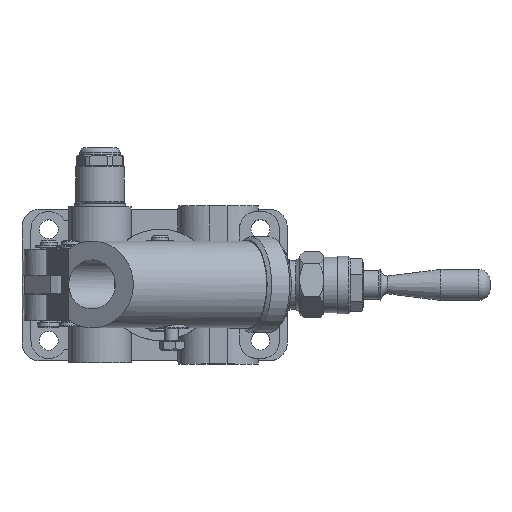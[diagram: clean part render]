
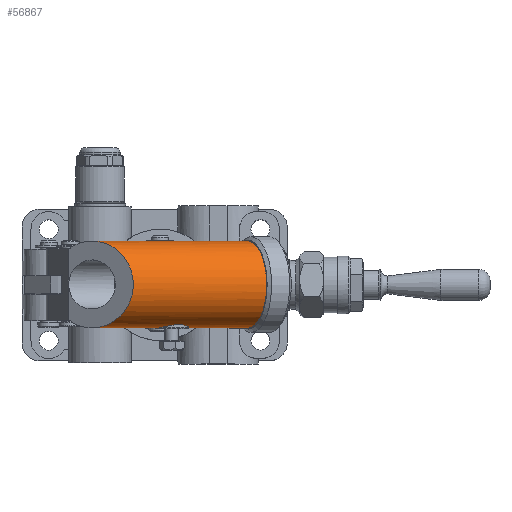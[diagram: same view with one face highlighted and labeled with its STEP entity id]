
A CAD part, top view. The second image highlights one B-rep face of the part: STEP entity #56867.
In plain terms, the highlighted cylindrical face has radius 19.48 mm (diameter 38.961 mm), a partial arc.
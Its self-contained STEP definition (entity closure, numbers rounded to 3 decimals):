
#98=ELLIPSE('',#60003,20.731,19.481);
#99=ELLIPSE('',#60008,20.731,19.481);
#100=ELLIPSE('',#60011,20.731,19.481);
#101=ELLIPSE('',#60014,22.494,19.481);
#102=ELLIPSE('',#60017,20.731,19.481);
#277=B_SPLINE_CURVE_WITH_KNOTS('',3,(#87055,#87056,#87057,#87058,#87059,
#87060),.UNSPECIFIED.,.F.,.F.,(4,1,1,4),(0.039,0.043,
0.045,0.047),.UNSPECIFIED.);
#278=B_SPLINE_CURVE_WITH_KNOTS('',3,(#87062,#87063,#87064,#87065,#87066),
 .UNSPECIFIED.,.F.,.F.,(4,1,4),(0.,0.004,0.009),
 .UNSPECIFIED.);
#279=B_SPLINE_CURVE_WITH_KNOTS('',3,(#87070,#87071,#87072,#87073,#87074),
 .UNSPECIFIED.,.F.,.F.,(4,1,4),(0.032,0.035,0.039),
 .UNSPECIFIED.);
#280=B_SPLINE_CURVE_WITH_KNOTS('',3,(#87076,#87077,#87078,#87079,#87080,
#87081,#87082),.UNSPECIFIED.,.F.,.F.,(4,1,1,1,4),(0.015,0.019,
0.024,0.028,0.032),.UNSPECIFIED.);
#281=B_SPLINE_CURVE_WITH_KNOTS('',3,(#87084,#87085,#87086,#87087,#87088),
 .UNSPECIFIED.,.F.,.F.,(4,1,4),(0.009,0.012,
0.015),.UNSPECIFIED.);
#5025=LINE('',#87022,#9785);
#5026=LINE('',#87023,#9786);
#5030=LINE('',#87033,#9790);
#5031=LINE('',#87035,#9791);
#5033=LINE('',#87041,#9793);
#5034=LINE('',#87045,#9794);
#5037=LINE('',#87053,#9797);
#9785=VECTOR('',#70982,1000.);
#9786=VECTOR('',#70983,1000.);
#9790=VECTOR('',#70993,1000.);
#9791=VECTOR('',#70994,1000.);
#9793=VECTOR('',#71002,1000.);
#9794=VECTOR('',#71009,1000.);
#9797=VECTOR('',#71018,1000.);
#23148=ORIENTED_EDGE('',*,*,#28996,.F.);
#23149=ORIENTED_EDGE('',*,*,#28995,.T.);
#23150=ORIENTED_EDGE('',*,*,#28992,.T.);
#23151=ORIENTED_EDGE('',*,*,#28991,.T.);
#23152=ORIENTED_EDGE('',*,*,#28990,.F.);
#23153=ORIENTED_EDGE('',*,*,#28988,.T.);
#23154=ORIENTED_EDGE('',*,*,#28987,.F.);
#23155=ORIENTED_EDGE('',*,*,#28997,.F.);
#23156=ORIENTED_EDGE('',*,*,#29000,.F.);
#23157=ORIENTED_EDGE('',*,*,#29001,.F.);
#23158=ORIENTED_EDGE('',*,*,#29002,.F.);
#23159=ORIENTED_EDGE('',*,*,#28998,.F.);
#23160=ORIENTED_EDGE('',*,*,#28986,.F.);
#23161=ORIENTED_EDGE('',*,*,#28984,.F.);
#23162=ORIENTED_EDGE('',*,*,#28981,.T.);
#23163=ORIENTED_EDGE('',*,*,#28978,.T.);
#23164=ORIENTED_EDGE('',*,*,#28980,.T.);
#23165=ORIENTED_EDGE('',*,*,#28976,.F.);
#28976=EDGE_CURVE('',#32848,#32849,#98,.T.);
#28978=EDGE_CURVE('',#32850,#32851,#33777,.T.);
#28980=EDGE_CURVE('',#32851,#32849,#5025,.F.);
#28981=EDGE_CURVE('',#32852,#32850,#5026,.T.);
#28984=EDGE_CURVE('',#32852,#32853,#99,.T.);
#28986=EDGE_CURVE('',#32853,#32855,#5030,.F.);
#28987=EDGE_CURVE('',#32855,#32854,#5031,.F.);
#28988=EDGE_CURVE('',#32856,#32854,#100,.T.);
#28990=EDGE_CURVE('',#32856,#32829,#5033,.F.);
#28991=EDGE_CURVE('',#32830,#32829,#101,.T.);
#28992=EDGE_CURVE('',#32857,#32830,#5034,.F.);
#28995=EDGE_CURVE('',#32858,#32857,#102,.T.);
#28996=EDGE_CURVE('',#32858,#32848,#5037,.T.);
#28997=EDGE_CURVE('',#32859,#32855,#277,.T.);
#28998=EDGE_CURVE('',#32855,#32860,#278,.T.);
#29000=EDGE_CURVE('',#32861,#32859,#279,.T.);
#29001=EDGE_CURVE('',#32862,#32861,#280,.T.);
#29002=EDGE_CURVE('',#32860,#32862,#281,.T.);
#32829=VERTEX_POINT('',#86953);
#32830=VERTEX_POINT('',#86955);
#32848=VERTEX_POINT('',#87012);
#32849=VERTEX_POINT('',#87014);
#32850=VERTEX_POINT('',#87018);
#32851=VERTEX_POINT('',#87019);
#32852=VERTEX_POINT('',#87024);
#32853=VERTEX_POINT('',#87028);
#32854=VERTEX_POINT('',#87032);
#32855=VERTEX_POINT('',#87034);
#32856=VERTEX_POINT('',#87038);
#32857=VERTEX_POINT('',#87046);
#32858=VERTEX_POINT('',#87050);
#32859=VERTEX_POINT('',#87061);
#32860=VERTEX_POINT('',#87067);
#32861=VERTEX_POINT('',#87075);
#32862=VERTEX_POINT('',#87083);
#33777=CIRCLE('',#60005,19.481);
#36668=EDGE_LOOP('',(#23148,#23149,#23150,#23151,#23152,#23153,#23154,#23155,
#23156,#23157,#23158,#23159,#23160,#23161,#23162,#23163,#23164,#23165));
#39580=FACE_BOUND('',#36668,.T.);
#39872=CYLINDRICAL_SURFACE('',#60021,19.481);
#56867=ADVANCED_FACE('',(#39580),#39872,.T.);
#60003=AXIS2_PLACEMENT_3D('',#87013,#70972,#70973);
#60005=AXIS2_PLACEMENT_3D('',#87017,#70977,#70978);
#60008=AXIS2_PLACEMENT_3D('',#87029,#70988,#70989);
#60011=AXIS2_PLACEMENT_3D('',#87037,#70997,#70998);
#60014=AXIS2_PLACEMENT_3D('',#87043,#71005,#71006);
#60017=AXIS2_PLACEMENT_3D('',#87051,#71014,#71015);
#60021=AXIS2_PLACEMENT_3D('',#87069,#71023,#71024);
#70972=DIRECTION('',(-0.702,0.,0.712));
#70973=DIRECTION('',(0.712,0.,0.702));
#70977=DIRECTION('',(-0.903,0.,0.429));
#70978=DIRECTION('',(0.429,0.,0.903));
#70982=DIRECTION('',(0.903,0.,-0.429));
#70983=DIRECTION('',(0.903,0.,-0.429));
#70988=DIRECTION('',(-0.702,0.,0.712));
#70989=DIRECTION('',(0.712,0.,0.702));
#70993=DIRECTION('',(0.903,0.,-0.429));
#70994=DIRECTION('',(0.903,0.,-0.429));
#70997=DIRECTION('',(-0.996,0.,0.094));
#70998=DIRECTION('',(-0.094,0.,-0.996));
#71002=DIRECTION('',(0.903,0.,-0.429));
#71005=DIRECTION('',(0.568,0.,-0.823));
#71006=DIRECTION('',(0.823,0.,0.568));
#71009=DIRECTION('',(0.903,0.,-0.429));
#71014=DIRECTION('',(-0.996,0.,0.094));
#71015=DIRECTION('',(-0.094,0.,-0.996));
#71018=DIRECTION('',(0.903,0.,-0.429));
#71023=DIRECTION('',(0.903,0.,-0.429));
#71024=DIRECTION('',(-0.429,0.,-0.903));
#86953=CARTESIAN_POINT('',(-41.164,-15.984,138.41));
#86955=CARTESIAN_POINT('',(-41.164,15.984,138.41));
#87012=CARTESIAN_POINT('',(35.198,17.982,106.214));
#87013=CARTESIAN_POINT('',(40.873,0.,111.814));
#87014=CARTESIAN_POINT('',(27.252,7.492,98.374));
#87017=CARTESIAN_POINT('',(39.426,0.,112.501));
#87018=CARTESIAN_POINT('',(31.718,-7.493,96.255));
#87019=CARTESIAN_POINT('',(31.718,7.492,96.255));
#87022=CARTESIAN_POINT('',(-44.098,7.492,132.224));
#87023=CARTESIAN_POINT('',(-44.098,-7.493,132.224));
#87024=CARTESIAN_POINT('',(27.252,-7.493,98.374));
#87028=CARTESIAN_POINT('',(35.198,-17.982,106.214));
#87029=CARTESIAN_POINT('',(40.873,0.,111.814));
#87032=CARTESIAN_POINT('',(-11.063,-17.982,128.162));
#87033=CARTESIAN_POINT('',(-39.602,-17.982,141.701));
#87034=CARTESIAN_POINT('',(1.916,-17.982,122.004));
#87035=CARTESIAN_POINT('',(-39.602,-17.982,141.701));
#87037=CARTESIAN_POINT('',(-10.316,0.,136.1));
#87038=CARTESIAN_POINT('',(-11.427,-15.984,124.302));
#87041=CARTESIAN_POINT('',(-41.164,-15.984,138.41));
#87043=CARTESIAN_POINT('',(-30.582,0.,145.715));
#87045=CARTESIAN_POINT('',(-41.164,15.984,138.41));
#87046=CARTESIAN_POINT('',(-11.427,15.984,124.302));
#87050=CARTESIAN_POINT('',(-11.063,17.982,128.162));
#87051=CARTESIAN_POINT('',(-10.316,0.,136.1));
#87053=CARTESIAN_POINT('',(-39.602,17.982,141.701));
#87055=CARTESIAN_POINT('',(-2.364,-19.231,128.886));
#87056=CARTESIAN_POINT('',(-2.385,-19.021,127.459));
#87057=CARTESIAN_POINT('',(-1.797,-18.538,125.331));
#87058=CARTESIAN_POINT('',(0.063,-18.071,123.114));
#87059=CARTESIAN_POINT('',(1.257,-17.982,122.317));
#87060=CARTESIAN_POINT('',(1.916,-17.982,122.004));
#87061=CARTESIAN_POINT('',(-2.364,-19.231,128.886));
#87062=CARTESIAN_POINT('',(1.916,-17.982,122.004));
#87063=CARTESIAN_POINT('',(3.235,-17.982,121.378));
#87064=CARTESIAN_POINT('',(6.165,-18.372,120.937));
#87065=CARTESIAN_POINT('',(8.868,-19.022,122.127));
#87066=CARTESIAN_POINT('',(9.954,-19.231,123.042));
#87067=CARTESIAN_POINT('',(9.954,-19.231,123.042));
#87069=CARTESIAN_POINT('',(-36.39,0.,148.471));
#87070=CARTESIAN_POINT('',(0.302,-19.231,134.504));
#87071=CARTESIAN_POINT('',(-0.516,-19.388,133.816));
#87072=CARTESIAN_POINT('',(-1.851,-19.574,132.089));
#87073=CARTESIAN_POINT('',(-2.348,-19.387,129.946));
#87074=CARTESIAN_POINT('',(-2.364,-19.231,128.886));
#87075=CARTESIAN_POINT('',(0.302,-19.231,134.504));
#87076=CARTESIAN_POINT('',(12.62,-19.231,128.66));
#87077=CARTESIAN_POINT('',(12.641,-19.02,130.096));
#87078=CARTESIAN_POINT('',(11.864,-18.374,132.909));
#87079=CARTESIAN_POINT('',(8.532,-17.786,135.931));
#87080=CARTESIAN_POINT('',(4.071,-18.373,136.608));
#87081=CARTESIAN_POINT('',(1.402,-19.019,135.431));
#87082=CARTESIAN_POINT('',(0.302,-19.231,134.504));
#87083=CARTESIAN_POINT('',(12.62,-19.231,128.66));
#87084=CARTESIAN_POINT('',(9.954,-19.231,123.042));
#87085=CARTESIAN_POINT('',(10.761,-19.386,123.721));
#87086=CARTESIAN_POINT('',(12.108,-19.574,125.456));
#87087=CARTESIAN_POINT('',(12.603,-19.388,127.594));
#87088=CARTESIAN_POINT('',(12.62,-19.231,128.66));
